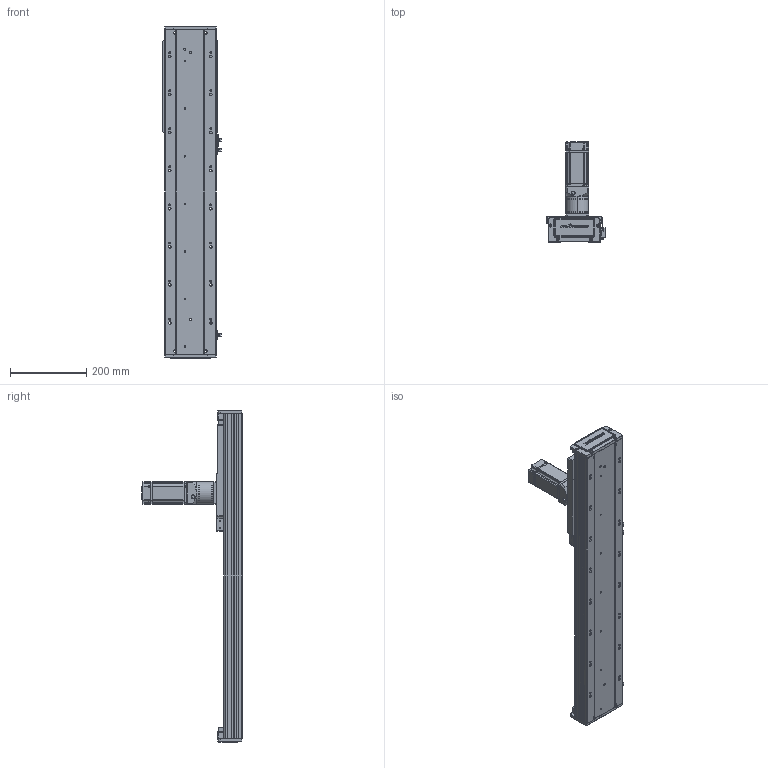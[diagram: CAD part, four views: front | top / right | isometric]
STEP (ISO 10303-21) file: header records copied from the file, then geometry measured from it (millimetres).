
FILE_DESCRIPTION (( 'STEP AP203' ), '1' );
FILE_NAME ('RY140-C-250-UK.SLDASM_500.step', '2022-03-12T01:58:18', ( '' ), ( '' ), 'SwSTEP 2.0', 'SolidWorks 2016', '' );
FILE_SCHEMA (( 'CONFIG_CONTROL_DESIGN' ));
Length unit declared in the file: millimetre
Products named in the file (12): 60ZDF珨撰俋倛芞T1 200W M4; 140蚥薯蝶輸; RY120外置感应片(140共用）; RY140-喘沭裔啣; 絳寢賑輸EGH15; RY140-喘沭賑輸; RY140-絳寢EGH15-300-MK_500; RY140-喘謫萇儂覃誹啣; 覜茼ん672; RY140-C-250-UK.SLDASM_500; 15; RY140-300齿条模组型材底座_500
Assembly tree (21 placements, depth 2):
  RY140-C-250-UK.SLDASM_500
    RY140-300齿条模组型材底座_500
    RY140-絳寢EGH15-300-MK_500  x2
    絳寢賑輸EGH15  x6
    RY140-喘沭裔啣  x2
    覜茼ん672  x3
    RY140-喘沭賑輸
    RY120外置感应片(140共用）
    RY140-喘謫萇儂覃誹啣
    140蚥薯蝶輸  x2
    60ZDF珨撰俋倛芞T1 200W M4
    15
Bounding box: 153.7 x 263.5 x 872 mm (x, y, z)
Volume: 3836648 mm3; surface area: 954285 mm2
Topology: 21 solids, 21 shells, 3140 faces, 8256 edges, 5354 vertices
Faces by surface type: plane 1620, cylinder 1270, cone 204, bspline 46
Entity records: 67631 total; most frequent: CARTESIAN_POINT 14229, DIRECTION 10883, ORIENTED_EDGE 10726, EDGE_CURVE 5363, AXIS2_PLACEMENT_3D 3821, VERTEX_POINT 3507, LINE 3241, VECTOR 3241
